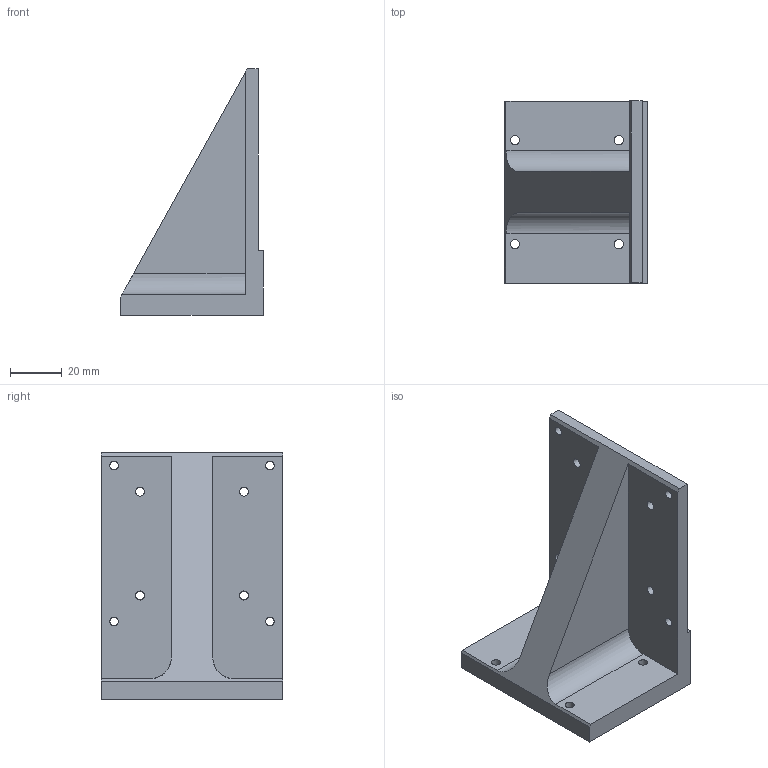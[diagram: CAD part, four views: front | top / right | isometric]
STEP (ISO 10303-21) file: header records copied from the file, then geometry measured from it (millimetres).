
FILE_DESCRIPTION( ( 'STEP AP203' ), '1' );
FILE_NAME( '//Srg14/OST事業部/技術G/Topsolid/PARTS/M-PARTS/ASS70Z-1/3D_ASS70Z-1/3D_ASS70Z-1+090218.step', '2009-02-19T04:41:53', ( ' ' ), ( ' ' ), 'XStep 1.0', ' ', ' ' );
FILE_SCHEMA( ( 'CONFIG_CONTROL_DESIGN' ) );
Length unit declared in the file: millimetre
Products named in the file (1): 1
Bounding box: 55 x 70 x 95 mm (x, y, z)
Volume: 96665.6 mm3; surface area: 26475.3 mm2
Topology: 1 solids, 1 shells, 29 faces, 89 edges, 62 vertices
Faces by surface type: plane 15, cylinder 14
Full cylindrical faces by diameter (mm): 3.3 x4, 3.5 x8
Entity records: 975 total; most frequent: DIRECTION 157, CARTESIAN_POINT 153, ORIENTED_EDGE 138, EDGE_CURVE 69, EDGE_LOOP 65, AXIS2_PLACEMENT_3D 58, VERTEX_POINT 54, FACE_OUTER_BOUND 41
